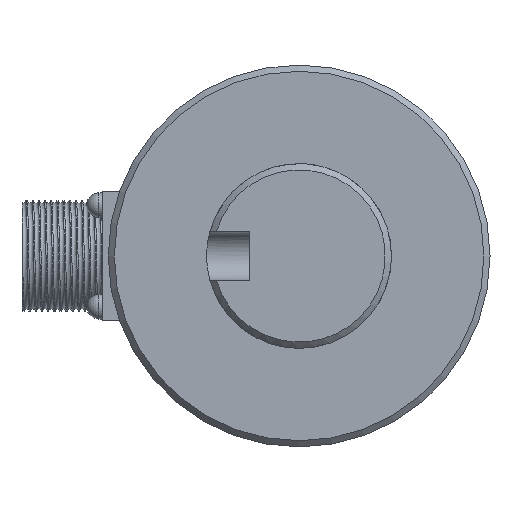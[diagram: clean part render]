
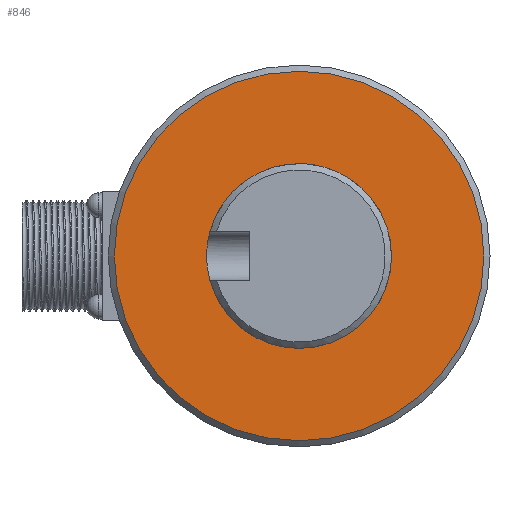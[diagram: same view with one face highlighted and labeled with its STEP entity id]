
A CAD part, left-side view. The second image highlights one B-rep face of the part: STEP entity #846.
In plain terms, the highlighted planar face has unit normal (-1, 0, 0).
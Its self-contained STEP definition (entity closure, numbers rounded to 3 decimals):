
#31=PLANE('',#944);
#48=FACE_BOUND('',#140,.T.);
#89=FACE_OUTER_BOUND('',#139,.T.);
#139=EDGE_LOOP('',(#633));
#140=EDGE_LOOP('',(#634));
#183=CIRCLE('',#934,30.);
#184=CIRCLE('',#936,15.);
#373=VERTEX_POINT('',#2221);
#374=VERTEX_POINT('',#2225);
#470=EDGE_CURVE('',#373,#373,#183,.T.);
#471=EDGE_CURVE('',#374,#374,#184,.T.);
#633=ORIENTED_EDGE('',*,*,#470,.T.);
#634=ORIENTED_EDGE('',*,*,#471,.T.);
#846=ADVANCED_FACE('',(#89,#48),#31,.F.);
#934=AXIS2_PLACEMENT_3D('',#2223,#1078,#1079);
#936=AXIS2_PLACEMENT_3D('',#2226,#1082,#1083);
#944=AXIS2_PLACEMENT_3D('',#2271,#1102,#1103);
#1078=DIRECTION('center_axis',(-1.,0.,0.));
#1079=DIRECTION('ref_axis',(0.,0.,-1.));
#1082=DIRECTION('center_axis',(1.,0.,0.));
#1083=DIRECTION('ref_axis',(0.,0.,-1.));
#1102=DIRECTION('center_axis',(1.,0.,0.));
#1103=DIRECTION('ref_axis',(0.,0.,-1.));
#2221=CARTESIAN_POINT('',(-21.5,0.,30.));
#2223=CARTESIAN_POINT('Origin',(-21.5,0.,0.));
#2225=CARTESIAN_POINT('',(-21.5,0.,15.));
#2226=CARTESIAN_POINT('Origin',(-21.5,0.,0.));
#2271=CARTESIAN_POINT('Origin',(-21.5,0.,0.));
